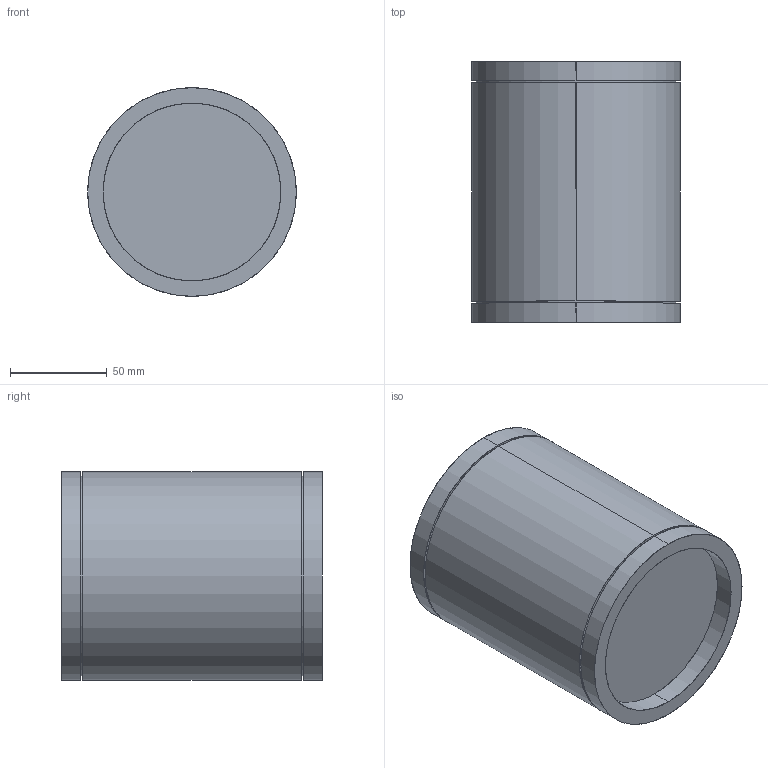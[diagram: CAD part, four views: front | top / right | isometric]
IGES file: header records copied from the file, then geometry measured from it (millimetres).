
Start section: SolidWorks IGES file using analytic representation for surfaces
Global section: file name: C:\Users\danielet\Desktop\3D CARLOS\NORI-P2044-3D\NORI-P2044-3D.IGS; native system: SolidWorks 2018; preprocessor: SolidWorks 2018; author: danielet; date: 220110.142459; units: millimetre
Bounding box: 108 x 135 x 108 mm (x, y, z)
Surface area: 69655.4 mm2 (no closed solid volume)
Topology: 0 solids, 0 shells, 19 faces, 816 edges, 816 vertices
Faces by surface type: revolution 12, bspline 7
